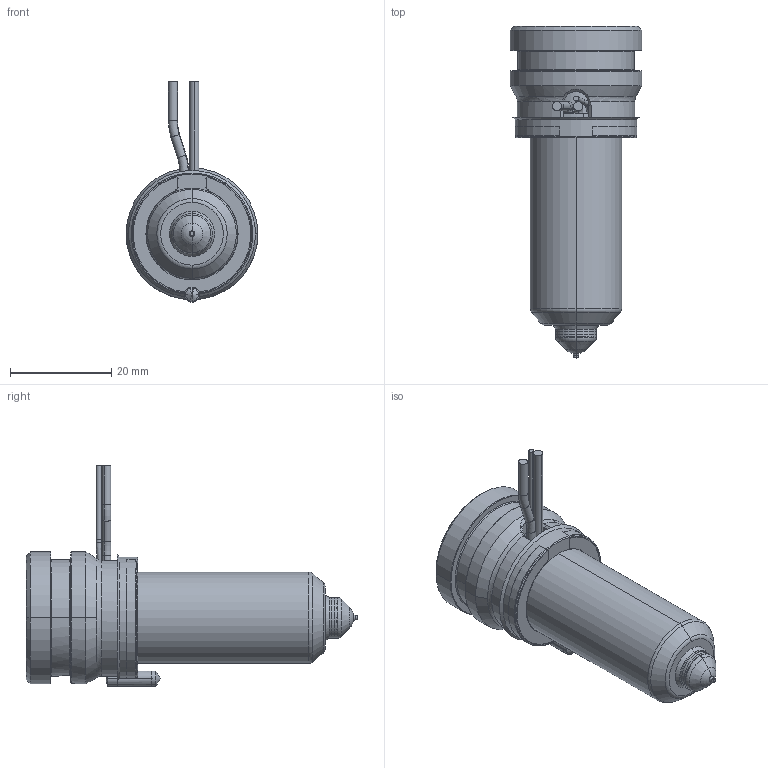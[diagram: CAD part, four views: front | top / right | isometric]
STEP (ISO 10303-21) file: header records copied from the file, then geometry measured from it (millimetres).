
FILE_DESCRIPTION((''),'2;1');
FILE_NAME('MPN-08-24-VX8-046-A','2026-02-05T11:59:21',('UPTIO'),('Thermoplay S.p.A.'),'CREO PARAMETRIC BY PTC INC, 2023494','CREO PARAMETRIC BY PTC INC, 2023494','');
FILE_SCHEMA(('CONFIG_CONTROL_DESIGN','SHAPE_APPEARANCE_LAYERS_GROUPS'));
Length unit declared in the file: millimetre
Products named in the file (1): MPN-08-24-VX8-046-A
Bounding box: 26 x 65.5 x 43.5 mm (x, y, z)
Volume: 14490.8 mm3; surface area: 16757.5 mm2
Topology: 2 solids, 3 shells, 523 faces, 1390 edges, 864 vertices
Faces by surface type: cylinder 180, plane 134, bspline 73, cone 62, torus 58, sphere 10, extrusion 6
Entity records: 28349 total; most frequent: CARTESIAN_POINT 12713, ORIENTED_EDGE 2764, DIRECTION 2491, EDGE_CURVE 1382, AXIS2_PLACEMENT_3D 973, VERTEX_POINT 864, EDGE_LOOP 550, VECTOR 545
